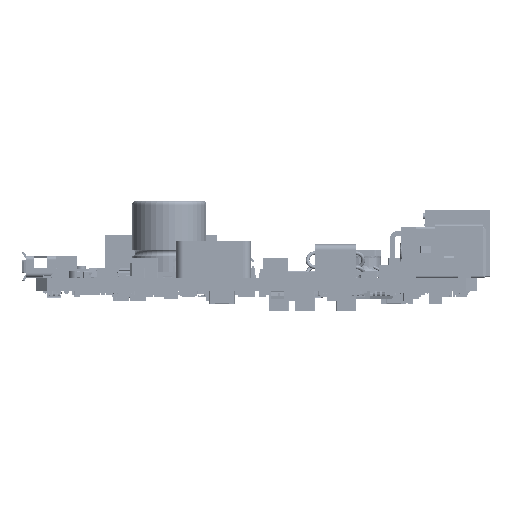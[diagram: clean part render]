
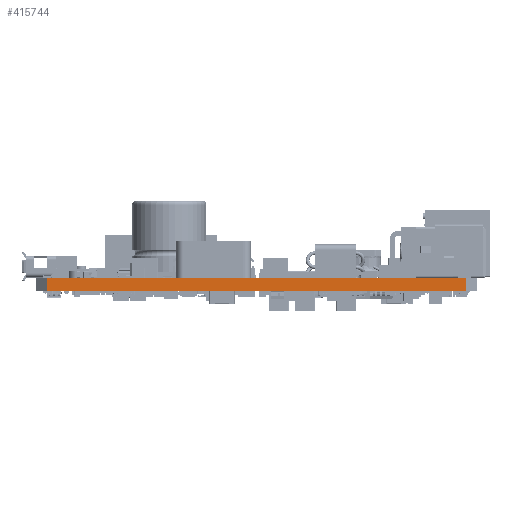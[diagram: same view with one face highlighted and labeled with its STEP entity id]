
A CAD part, left-side view. The second image highlights one B-rep face of the part: STEP entity #415744.
In plain terms, the highlighted planar face has unit normal (-1, 0, 0).
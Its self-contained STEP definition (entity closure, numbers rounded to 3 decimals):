
#21238 = ORIENTED_EDGE ( 'NONE', *, *, #75191, .T. ) ;
#25189 = DIRECTION ( 'NONE',  ( 0., 1., 0. ) ) ;
#75191 = EDGE_CURVE ( 'NONE', #150403, #677248, #537901, .T. ) ;
#94258 = LINE ( 'NONE', #385731, #571045 ) ;
#121982 = CARTESIAN_POINT ( 'NONE',  ( -81.674, -66.555, 84.037 ) ) ;
#146393 = VECTOR ( 'NONE', #425714, 1000. ) ;
#146671 = DIRECTION ( 'NONE',  ( 0., -1., 0. ) ) ;
#147171 = DIRECTION ( 'NONE',  ( 0., 0., 1. ) ) ;
#150403 = VERTEX_POINT ( 'NONE', #200414 ) ;
#151150 = EDGE_CURVE ( 'NONE', #677248, #213747, #301243, .T. ) ;
#200414 = CARTESIAN_POINT ( 'NONE',  ( -81.674, -9.855, 84.037 ) ) ;
#213747 = VERTEX_POINT ( 'NONE', #517013 ) ;
#241478 = DIRECTION ( 'NONE',  ( 0., 0., 1. ) ) ;
#241913 = EDGE_CURVE ( 'NONE', #338496, #213747, #94258, .T. ) ;
#279337 = VECTOR ( 'NONE', #241478, 1000. ) ;
#301243 = LINE ( 'NONE', #121982, #279337 ) ;
#311770 = LINE ( 'NONE', #494683, #633058 ) ;
#338496 = VERTEX_POINT ( 'NONE', #737873 ) ;
#369215 = ORIENTED_EDGE ( 'NONE', *, *, #652960, .F. ) ;
#385731 = CARTESIAN_POINT ( 'NONE',  ( -81.674, -9.855, 85.677 ) ) ;
#415744 = ADVANCED_FACE ( 'NONE', ( #544654 ), #716627, .F. ) ;
#425714 = DIRECTION ( 'NONE',  ( 0., -1., 0. ) ) ;
#473846 = DIRECTION ( 'NONE',  ( 1., 0., 0. ) ) ;
#481785 = CARTESIAN_POINT ( 'NONE',  ( -81.674, -9.855, 84.037 ) ) ;
#494683 = CARTESIAN_POINT ( 'NONE',  ( -81.674, -9.855, 84.037 ) ) ;
#517013 = CARTESIAN_POINT ( 'NONE',  ( -81.674, -66.555, 85.677 ) ) ;
#537288 = CARTESIAN_POINT ( 'NONE',  ( -81.674, -9.855, 84.037 ) ) ;
#537901 = LINE ( 'NONE', #481785, #146393 ) ;
#544654 = FACE_OUTER_BOUND ( 'NONE', #639771, .T. ) ;
#561221 = AXIS2_PLACEMENT_3D ( 'NONE', #537288, #473846, #25189 ) ;
#571045 = VECTOR ( 'NONE', #146671, 1000. ) ;
#587876 = ORIENTED_EDGE ( 'NONE', *, *, #151150, .T. ) ;
#633058 = VECTOR ( 'NONE', #147171, 1000. ) ;
#639771 = EDGE_LOOP ( 'NONE', ( #21238, #587876, #642009, #369215 ) ) ;
#642009 = ORIENTED_EDGE ( 'NONE', *, *, #241913, .F. ) ;
#652960 = EDGE_CURVE ( 'NONE', #150403, #338496, #311770, .T. ) ;
#677248 = VERTEX_POINT ( 'NONE', #698895 ) ;
#698895 = CARTESIAN_POINT ( 'NONE',  ( -81.674, -66.555, 84.037 ) ) ;
#716627 = PLANE ( 'NONE',  #561221 ) ;
#737873 = CARTESIAN_POINT ( 'NONE',  ( -81.674, -9.855, 85.677 ) ) ;
